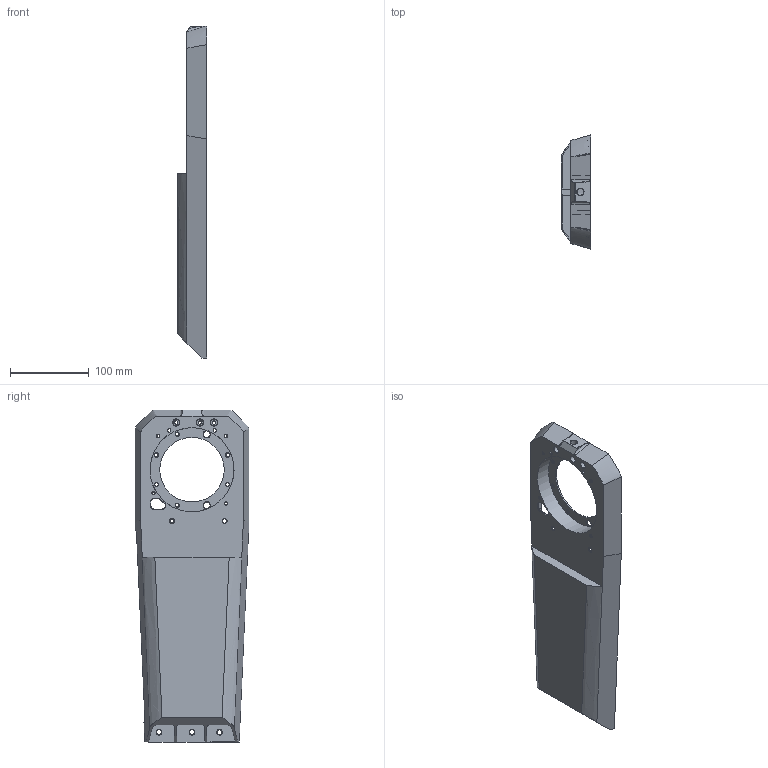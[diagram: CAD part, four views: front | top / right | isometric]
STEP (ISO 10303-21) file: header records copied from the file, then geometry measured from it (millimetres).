
FILE_DESCRIPTION(/* description */ ('STEP AP242 Edition 2','CAx-IF Rec.Pracs.---Representation and Presentation of Product Manufacturing Information (PMI)---4.0---2014-10-13','CAx-IF Rec.Pracs.---3D Tessellated Geometry---0.4---2014-09-14','2;1','CAx-IF Rec.Pracs.---User Defined Attributes---1.5---2016-08-15'),/* implementation_level */ '2;1');
FILE_NAME(/* name */ 'Assy_ForMFG - KD-B-103R_TORSO_RIGHT',/* time_stamp */ '2026-05-15T19:56:26Z',/* author */ (''),/* organization */ (''),/* preprocessor_version */ 'ST-DEVELOPER v20',/* originating_system */ 'ONSHAPE BY PTC INC, 1.215',/* authorisation */ ' ');
FILE_SCHEMA (('AP242_MANAGED_MODEL_BASED_3D_ENGINEERING_MIM_LF { 1 0 10303 442 3 1 4 }'));
Length unit declared in the file: metre
Products named in the file (1): KD-B-103R_TORSO_RIGHT
Bounding box: 37 x 145 x 422.5 mm (x, y, z)
Volume: 169402 mm3; surface area: 187160.9 mm2
Topology: 1 solids, 1 shells, 377 faces, 1088 edges, 719 vertices
Faces by surface type: cylinder 176, plane 139, cone 38, bspline 24
Full cylindrical faces by diameter (mm): 3.3 x4, 3.5 x2, 4 x2, 4.3 x3, 4.5 x8, 5.3 x2, 6.3 x3, 8 x2, 8.25 x5, 8.5 x3, 82 x1, 107 x1
Entity records: 13174 total; most frequent: CARTESIAN_POINT 3569, DIRECTION 1995, ORIENTED_EDGE 1954, EDGE_CURVE 977, AXIS2_PLACEMENT_3D 752, VERTEX_POINT 678, FACE_BOUND 503, EDGE_LOOP 501
